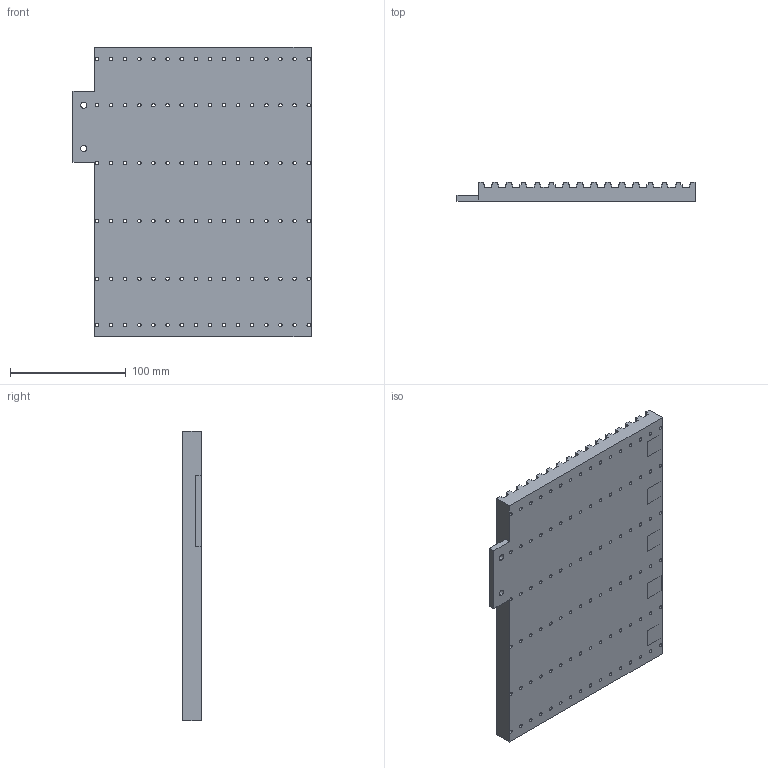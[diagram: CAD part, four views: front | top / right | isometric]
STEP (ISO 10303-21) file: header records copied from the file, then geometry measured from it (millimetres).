
FILE_DESCRIPTION (( 'STEP AP214' ), '1' );
FILE_NAME ('沭湍滄湛.STEP', '2024-04-21T14:28:32', ( 'joe' ), ( '' ), 'SwSTEP 2.0', 'SolidWorks 2023', '' );
FILE_SCHEMA (( 'AUTOMOTIVE_DESIGN' ));
Length unit declared in the file: millimetre
Products named in the file (1): 条带飞达
Bounding box: 205.79 x 16 x 250 mm (x, y, z)
Volume: 624420.5 mm3; surface area: 156820.2 mm2
Topology: 1 solids, 1 shells, 351 faces, 1032 edges, 688 vertices
Faces by surface type: cylinder 196, plane 155
Entity records: 12233 total; most frequent: DIRECTION 2128, CARTESIAN_POINT 2072, ORIENTED_EDGE 2064, EDGE_CURVE 1032, AXIS2_PLACEMENT_3D 744, VERTEX_POINT 688, LINE 640, VECTOR 640
